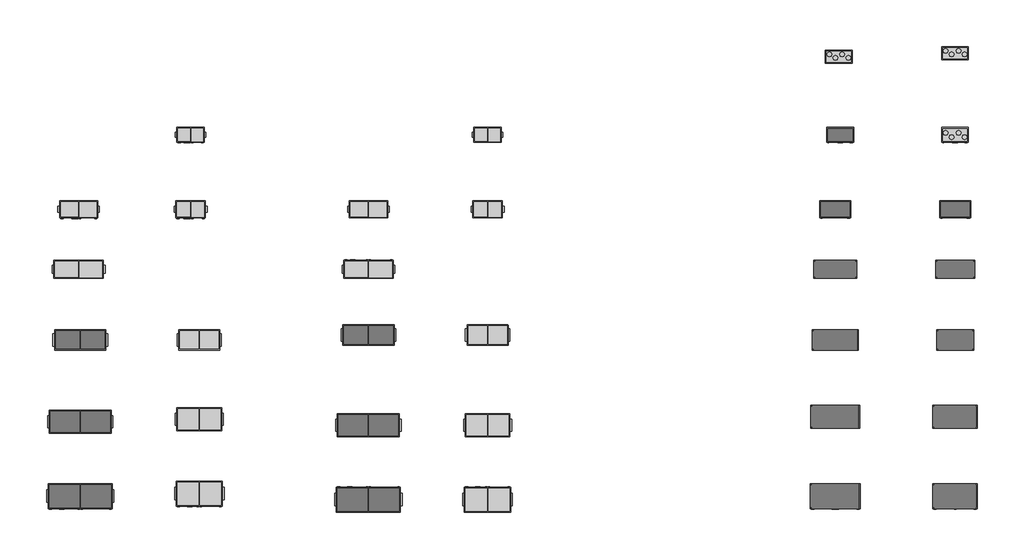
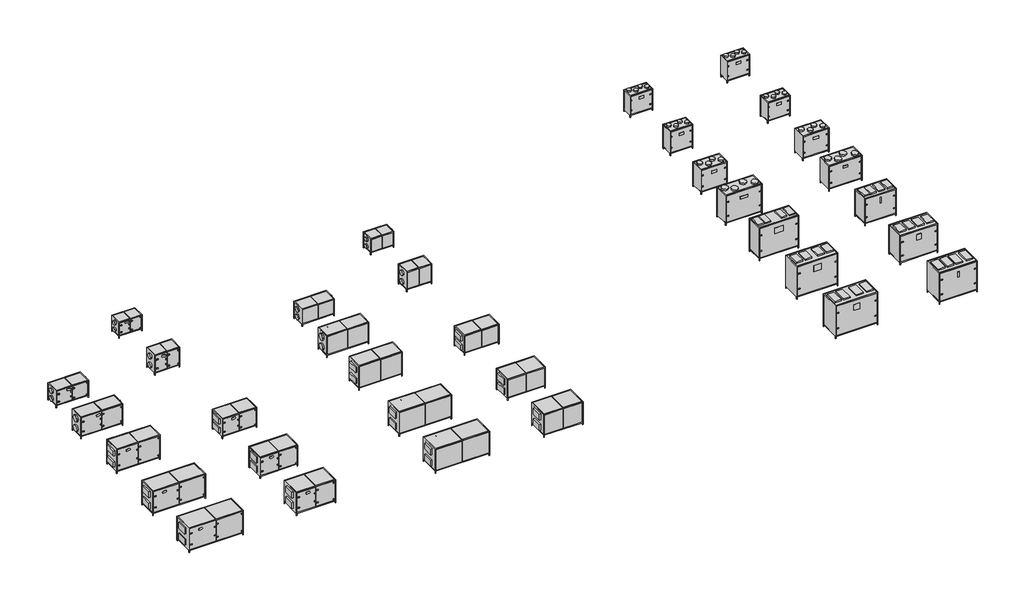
# One storey: 34 proxies.
"""IFC4 building model written with IfcOpenShell, lengths in millimetres."""

from ifc_helpers import new_model, si_unit, origin, place, context, project, spatial, transform, mapped, element, save
from components import mechanical_equipment_2523bcf0, mechanical_equipment_9481cabd, mechanical_equipment_d3b09ded, mechanical_equipment_750895ba, mechanical_equipment_31ed4147, mechanical_equipment_a03e5735, mechanical_equipment_086ffb07, mechanical_equipment_43ca4bb2, mechanical_equipment_346894f1, mechanical_equipment_7bd0ba8a, mechanical_equipment_8b9c5347, mechanical_equipment_660908ed, mechanical_equipment_792a2d4f, mechanical_equipment_8cbfdd6f, mechanical_equipment_98732234, mechanical_equipment_9d146b96, mechanical_equipment_707842d6, mechanical_equipment_707ccb95, mechanical_equipment_3ae6ca7d, mechanical_equipment_b66e81a1, mechanical_equipment_55f593f8, mechanical_equipment_3d6faeaf, mechanical_equipment_435d2f1d, mechanical_equipment_fb35fa56, mechanical_equipment_b3972196, mechanical_equipment_b11091fd, mechanical_equipment_99d7c7c8, mechanical_equipment_9ee506a8, mechanical_equipment_2839a8d2, mechanical_equipment_59593223, mechanical_equipment_4fb69c1d, mechanical_equipment_587655b3

model = new_model("IFC4")

# Units and contexts
model_context = context("Model", 3, world=origin())
ifc_project = project(units=[si_unit("LENGTHUNIT", "METRE", prefix="MILLI")], contexts=[model_context])

# Site, building, storey
site = spatial("IfcSite", under=ifc_project)
building = spatial("IfcBuilding", under=site)
storey = spatial("IfcBuildingStorey", under=building, Name="Уровень 1", Elevation=0.0)

# Proxies
placement = place(None, origin())
mechanical_equipment_shape = mechanical_equipment_2523bcf0(model_context)
element("IfcBuildingElementProxy", 1, Name="AVS 2200...3800-S-RC(RG)-R : AVS 3800-S-RC-R", ObjectType="AVS 2200...3800-S-RC(RG)-R : AVS 3800-S-RC-R", at=placement, inside=storey, context=model_context, shape_type="MappedRepresentation", body=[
    mapped(mechanical_equipment_shape, transform((-18302.7337652, -8735.3766999, 0.0), x_axis=(1.0, 0.0, 0.0), y_axis=(0.0, 1.0, 0.0), z_axis=(0.0, 0.0, 1.0))),
])
mechanical_equipment_2_shape = mechanical_equipment_9481cabd(model_context)
element("IfcBuildingElementProxy", 2, Name="AVS 2200...3800-S-RC(RG)-R : AVS 2900-S-RC-R", ObjectType="AVS 2200...3800-S-RC(RG)-R : AVS 2900-S-RC-R", at=placement, inside=storey, context=model_context, shape_type="MappedRepresentation", body=[
    mapped(mechanical_equipment_2_shape, transform((-18302.7337652, -5735.3766999, 0.0), x_axis=(1.0, 0.0, 0.0), y_axis=(0.0, 1.0, 0.0), z_axis=(0.0, 0.0, 1.0))),
])
mechanical_equipment_3_shape = mechanical_equipment_d3b09ded(model_context)
element("IfcBuildingElementProxy", 3, Name="AVS 2200...3800-S-RC(RG)-R : AVS 2200-S-RC-R", ObjectType="AVS 2200...3800-S-RC(RG)-R : AVS 2200-S-RC-R", at=placement, inside=storey, context=model_context, shape_type="MappedRepresentation", body=[
    mapped(mechanical_equipment_3_shape, transform((-18302.7337652, -2435.3766999, 0.0), x_axis=(1.0, 0.0, 0.0), y_axis=(0.0, 1.0, 0.0), z_axis=(0.0, 0.0, 1.0))),
])
mechanical_equipment_4_shape = mechanical_equipment_750895ba(model_context)
element("IfcBuildingElementProxy", 4, Name="AVS 2200...3800-S-RC(RG)-R : AVS 2200-S-RG-R", ObjectType="AVS 2200...3800-S-RC(RG)-R : AVS 2200-S-RG-R", at=placement, inside=storey, context=model_context, shape_type="MappedRepresentation", body=[
    mapped(mechanical_equipment_4_shape, transform((-13502.7337652, -2435.3766999, 0.0), x_axis=(1.0, 0.0, 0.0), y_axis=(0.0, 1.0, 0.0), z_axis=(0.0, 0.0, 1.0))),
])
mechanical_equipment_5_shape = mechanical_equipment_31ed4147(model_context)
element("IfcBuildingElementProxy", 5, Name="AVS 2200...3800-S-RC(RG)-R : AVS 2900-S-RG-R", ObjectType="AVS 2200...3800-S-RC(RG)-R : AVS 2900-S-RG-R", at=placement, inside=storey, context=model_context, shape_type="MappedRepresentation", body=[
    mapped(mechanical_equipment_5_shape, transform((-13502.7337652, -5635.3766999, 0.0), x_axis=(1.0, 0.0, 0.0), y_axis=(0.0, 1.0, 0.0), z_axis=(0.0, 0.0, 1.0))),
])
mechanical_equipment_6_shape = mechanical_equipment_a03e5735(model_context)
element("IfcBuildingElementProxy", 6, Name="AVS 2200...3800-S-RC(RG)-R : AVS 3800-S-RG-R", ObjectType="AVS 2200...3800-S-RC(RG)-R : AVS 3800-S-RG-R", at=placement, inside=storey, context=model_context, shape_type="MappedRepresentation", body=[
    mapped(mechanical_equipment_6_shape, transform((-13502.7337652, -8635.3766999, 0.0), x_axis=(1.0, 0.0, 0.0), y_axis=(0.0, 1.0, 0.0), z_axis=(0.0, 0.0, 1.0))),
])
mechanical_equipment_7_shape = mechanical_equipment_086ffb07(model_context)
element("IfcBuildingElementProxy", 7, Name="AVS 400...1600-S-RC(RG)-R : AVS 1600-S-RC-R", ObjectType="AVS 400...1600-S-RC(RG)-R : AVS 1600-S-RC-R", at=placement, inside=storey, context=model_context, shape_type="MappedRepresentation", body=[
    mapped(mechanical_equipment_7_shape, transform((-18369.703958, 413.9592899, 0.0), x_axis=(1.0, 0.0, 0.0), y_axis=(0.0, 1.0, 0.0), z_axis=(0.0, 0.0, 1.0))),
])
mechanical_equipment_8_shape = mechanical_equipment_43ca4bb2(model_context)
element("IfcBuildingElementProxy", 8, Name="AVS 400...1600-S-RC(RG)-R : AVS 1100-S-RG-R", ObjectType="AVS 400...1600-S-RC(RG)-R : AVS 1100-S-RG-R", at=placement, inside=storey, context=model_context, shape_type="MappedRepresentation", body=[
    mapped(mechanical_equipment_8_shape, transform((-13853.9818971, 2826.7752053, 0.0), x_axis=(1.0, 0.0, 0.0), y_axis=(0.0, 1.0, 0.0), z_axis=(0.0, 0.0, 1.0))),
])
mechanical_equipment_9_shape = mechanical_equipment_346894f1(model_context)
element("IfcBuildingElementProxy", 9, Name="AVS 400...1600-S-RC(RG)-R : AVS 1100-S-RC-R", ObjectType="AVS 400...1600-S-RC(RG)-R : AVS 1100-S-RC-R", at=placement, inside=storey, context=model_context, shape_type="MappedRepresentation", body=[
    mapped(mechanical_equipment_9_shape, transform((-18369.703958, 2826.7752053, 0.0), x_axis=(1.0, 0.0, 0.0), y_axis=(0.0, 1.0, 0.0), z_axis=(0.0, 0.0, 1.0))),
])
mechanical_equipment_10_shape = mechanical_equipment_7bd0ba8a(model_context)
element("IfcBuildingElementProxy", 10, Name="AVS 400...1600-S-RC(RG)-R : AVS 700-S-RG-R", ObjectType="AVS 400...1600-S-RC(RG)-R : AVS 700-S-RG-R", at=placement, inside=storey, context=model_context, shape_type="MappedRepresentation", body=[
    mapped(mechanical_equipment_10_shape, transform((-13853.9818971, 5826.7752053, 0.0), x_axis=(1.0, 0.0, 0.0), y_axis=(0.0, 1.0, 0.0), z_axis=(0.0, 0.0, 1.0))),
])
mechanical_equipment_11_shape = mechanical_equipment_8b9c5347(model_context)
element("IfcBuildingElementProxy", 11, Name="AVS 2200...3800-S-RC(RG)-L : AVS 3800-S-RC-L", ObjectType="AVS 2200...3800-S-RC(RG)-L : AVS 3800-S-RC-L", at=placement, inside=storey, context=model_context, shape_type="MappedRepresentation", body=[
    mapped(mechanical_equipment_11_shape, transform((-6682.1235207, -8875.3766999, 0.0), x_axis=(1.0, 0.0, 0.0), y_axis=(0.0, 1.0, 0.0), z_axis=(0.0, 0.0, 1.0))),
])
mechanical_equipment_12_shape = mechanical_equipment_660908ed(model_context)
element("IfcBuildingElementProxy", 12, Name="AVS 2200...3800-S-RC(RG)-L : AVS 2900-S-RC-L", ObjectType="AVS 2200...3800-S-RC(RG)-L : AVS 2900-S-RC-L", at=placement, inside=storey, context=model_context, shape_type="MappedRepresentation", body=[
    mapped(mechanical_equipment_12_shape, transform((-6682.1235207, -5875.3766999, 0.0), x_axis=(1.0, 0.0, 0.0), y_axis=(0.0, 1.0, 0.0), z_axis=(0.0, 0.0, 1.0))),
])
mechanical_equipment_13_shape = mechanical_equipment_792a2d4f(model_context)
element("IfcBuildingElementProxy", 13, Name="AVS 2200...3800-S-RC(RG)-L : AVS 2200-S-RC-L", ObjectType="AVS 2200...3800-S-RC(RG)-L : AVS 2200-S-RC-L", at=placement, inside=storey, context=model_context, shape_type="MappedRepresentation", body=[
    mapped(mechanical_equipment_13_shape, transform((-6682.1235207, -2242.086057, 0.0), x_axis=(1.0, 0.0, 0.0), y_axis=(0.0, 1.0, 0.0), z_axis=(0.0, 0.0, 1.0))),
])
mechanical_equipment_14_shape = mechanical_equipment_8cbfdd6f(model_context)
element("IfcBuildingElementProxy", 14, Name="AVS 2200...3800-S-RC(RG)-L : AVS 2200-S-RG-L", ObjectType="AVS 2200...3800-S-RC(RG)-L : AVS 2200-S-RG-L", at=placement, inside=storey, context=model_context, shape_type="MappedRepresentation", body=[
    mapped(mechanical_equipment_14_shape, transform((-1882.1235207, -2242.086057, 0.0), x_axis=(1.0, 0.0, 0.0), y_axis=(0.0, 1.0, 0.0), z_axis=(0.0, 0.0, 1.0))),
])
mechanical_equipment_15_shape = mechanical_equipment_98732234(model_context)
element("IfcBuildingElementProxy", 15, Name="AVS 2200...3800-S-RC(RG)-L : AVS 2900-S-RG-L", ObjectType="AVS 2200...3800-S-RC(RG)-L : AVS 2900-S-RG-L", at=placement, inside=storey, context=model_context, shape_type="MappedRepresentation", body=[
    mapped(mechanical_equipment_15_shape, transform((-1882.1235207, -5875.3766999, 0.0), x_axis=(1.0, 0.0, 0.0), y_axis=(0.0, 1.0, 0.0), z_axis=(0.0, 0.0, 1.0))),
])
mechanical_equipment_16_shape = mechanical_equipment_9d146b96(model_context)
element("IfcBuildingElementProxy", 16, Name="AVS 2200...3800-S-RC(RG)-L : AVS 3800-S-RG-L", ObjectType="AVS 2200...3800-S-RC(RG)-L : AVS 3800-S-RG-L", at=placement, inside=storey, context=model_context, shape_type="MappedRepresentation", body=[
    mapped(mechanical_equipment_16_shape, transform((-1882.1235207, -8875.3766999, 0.0), x_axis=(1.0, 0.0, 0.0), y_axis=(0.0, 1.0, 0.0), z_axis=(0.0, 0.0, 1.0))),
])
mechanical_equipment_17_shape = mechanical_equipment_707842d6(model_context)
element("IfcBuildingElementProxy", 17, Name="AVS 400...1600-S-RC(RG)-L : AVS 1600-S-RC-L", ObjectType="AVS 400...1600-S-RC(RG)-L : AVS 1600-S-RC-L", at=placement, inside=storey, context=model_context, shape_type="MappedRepresentation", body=[
    mapped(mechanical_equipment_17_shape, transform((-6682.1235207, 413.9592899, 0.0), x_axis=(1.0, 0.0, 0.0), y_axis=(0.0, 1.0, 0.0), z_axis=(0.0, 0.0, 1.0))),
])
mechanical_equipment_18_shape = mechanical_equipment_707ccb95(model_context)
element("IfcBuildingElementProxy", 18, Name="AVS 400...1600-S-RC(RG)-L : AVS 1100-S-RG-L", ObjectType="AVS 400...1600-S-RC(RG)-L : AVS 1100-S-RG-L", at=placement, inside=storey, context=model_context, shape_type="MappedRepresentation", body=[
    mapped(mechanical_equipment_18_shape, transform((-1882.1235207, 2826.7752053, 0.0), x_axis=(1.0, 0.0, 0.0), y_axis=(0.0, 1.0, 0.0), z_axis=(0.0, 0.0, 1.0))),
])
mechanical_equipment_19_shape = mechanical_equipment_3ae6ca7d(model_context)
element("IfcBuildingElementProxy", 19, Name="AVS 400...1600-S-RC(RG)-L : AVS 1100-S-RC-L", ObjectType="AVS 400...1600-S-RC(RG)-L : AVS 1100-S-RC-L", at=placement, inside=storey, context=model_context, shape_type="MappedRepresentation", body=[
    mapped(mechanical_equipment_19_shape, transform((-6682.1235207, 2826.7752053, 0.0), x_axis=(1.0, 0.0, 0.0), y_axis=(0.0, 1.0, 0.0), z_axis=(0.0, 0.0, 1.0))),
])
mechanical_equipment_20_shape = mechanical_equipment_b66e81a1(model_context)
element("IfcBuildingElementProxy", 20, Name="AVS 400...1600-S-RC(RG)-L : AVS 700-S-RG-L", ObjectType="AVS 400...1600-S-RC(RG)-L : AVS 700-S-RG-L", at=placement, inside=storey, context=model_context, shape_type="MappedRepresentation", body=[
    mapped(mechanical_equipment_20_shape, transform((-1882.1235207, 5826.7752053, 0.0), x_axis=(1.0, 0.0, 0.0), y_axis=(0.0, 1.0, 0.0), z_axis=(0.0, 0.0, 1.0))),
])
mechanical_equipment_21_shape = mechanical_equipment_55f593f8(model_context)
element("IfcBuildingElementProxy", 21, Name="AVS 2200...3800-V-RC(RG) : AVS 3800-V-RC", ObjectType="AVS 2200...3800-V-RC(RG) : AVS 3800-V-RC", at=placement, inside=storey, context=model_context, shape_type="MappedRepresentation", body=[
    mapped(mechanical_equipment_21_shape, transform((12137.241764, -8735.3766999, 0.0), x_axis=(1.0, 0.0, 0.0), y_axis=(0.0, 1.0, 0.0), z_axis=(0.0, 0.0, 1.0))),
])
mechanical_equipment_22_shape = mechanical_equipment_3d6faeaf(model_context)
element("IfcBuildingElementProxy", 22, Name="AVS 2200...3800-V-RC(RG) : AVS 2900-V-RC", ObjectType="AVS 2200...3800-V-RC(RG) : AVS 2900-V-RC", at=placement, inside=storey, context=model_context, shape_type="MappedRepresentation", body=[
    mapped(mechanical_equipment_22_shape, transform((12137.241764, -5535.3766999, 0.0), x_axis=(1.0, 0.0, 0.0), y_axis=(0.0, 1.0, 0.0), z_axis=(0.0, 0.0, 1.0))),
])
mechanical_equipment_23_shape = mechanical_equipment_435d2f1d(model_context)
element("IfcBuildingElementProxy", 23, Name="AVS 2200...3800-V-RC(RG) : AVS 2200-V-RC", ObjectType="AVS 2200...3800-V-RC(RG) : AVS 2200-V-RC", at=placement, inside=storey, context=model_context, shape_type="MappedRepresentation", body=[
    mapped(mechanical_equipment_23_shape, transform((12137.241764, -2435.3766999, 0.0), x_axis=(1.0, 0.0, 0.0), y_axis=(0.0, 1.0, 0.0), z_axis=(0.0, 0.0, 1.0))),
])
mechanical_equipment_24_shape = mechanical_equipment_fb35fa56(model_context)
element("IfcBuildingElementProxy", 24, Name="AVS 2200...3800-V-RC(RG) : AVS 2900-V-RG", ObjectType="AVS 2200...3800-V-RC(RG) : AVS 2900-V-RG", at=placement, inside=storey, context=model_context, shape_type="MappedRepresentation", body=[
    mapped(mechanical_equipment_24_shape, transform((16968.0142012, -5535.3766999, 0.0), x_axis=(1.0, 0.0, 0.0), y_axis=(0.0, 1.0, 0.0), z_axis=(0.0, 0.0, 1.0))),
])
mechanical_equipment_25_shape = mechanical_equipment_b3972196(model_context)
element("IfcBuildingElementProxy", 25, Name="AVS 2200...3800-V-RC(RG) : AVS 2200-V-RG", ObjectType="AVS 2200...3800-V-RC(RG) : AVS 2200-V-RG", at=placement, inside=storey, context=model_context, shape_type="MappedRepresentation", body=[
    mapped(mechanical_equipment_25_shape, transform((16968.0142012, -2435.3766999, 0.0), x_axis=(1.0, 0.0, 0.0), y_axis=(0.0, 1.0, 0.0), z_axis=(0.0, 0.0, 1.0))),
])
mechanical_equipment_26_shape = mechanical_equipment_b11091fd(model_context)
element("IfcBuildingElementProxy", 26, Name="AVS 2200...3800-V-RC(RG) : AVS 3800-V-RG", ObjectType="AVS 2200...3800-V-RC(RG) : AVS 3800-V-RG", at=placement, inside=storey, context=model_context, shape_type="MappedRepresentation", body=[
    mapped(mechanical_equipment_26_shape, transform((16968.0142012, -8735.3766999, 0.0), x_axis=(1.0, 0.0, 0.0), y_axis=(0.0, 1.0, 0.0), z_axis=(0.0, 0.0, 1.0))),
])
mechanical_equipment_27_shape = mechanical_equipment_99d7c7c8(model_context)
element("IfcBuildingElementProxy", 27, Name="AVS 400...1600-V-RC(RG) : AVS 1600-V-RC", ObjectType="AVS 400...1600-V-RC(RG) : AVS 1600-V-RC", at=placement, inside=storey, context=model_context, shape_type="MappedRepresentation", body=[
    mapped(mechanical_equipment_27_shape, transform((12137.241764, 413.9592899, 0.0), x_axis=(1.0, 0.0, 0.0), y_axis=(0.0, 1.0, 0.0), z_axis=(0.0, 0.0, 1.0))),
])
mechanical_equipment_28_shape = mechanical_equipment_9ee506a8(model_context)
element("IfcBuildingElementProxy", 28, Name="AVS 400...1600-V-RC(RG) : AVS 1100-V-RC", ObjectType="AVS 400...1600-V-RC(RG) : AVS 1100-V-RC", at=placement, inside=storey, context=model_context, shape_type="MappedRepresentation", body=[
    mapped(mechanical_equipment_28_shape, transform((12137.241764, 2826.7752053, 0.0), x_axis=(1.0, 0.0, 0.0), y_axis=(0.0, 1.0, 0.0), z_axis=(0.0, 0.0, 1.0))),
])
element("IfcBuildingElementProxy", 29, Name="AVS 400...1600-V-RC(RG) : AVS 1100-V-RG", ObjectType="AVS 400...1600-V-RC(RG) : AVS 1100-V-RG", at=placement, inside=storey, context=model_context, shape_type="MappedRepresentation", body=[
    mapped(mechanical_equipment_28_shape, transform((16968.0142012, 2826.7752053, 0.0), x_axis=(1.0, 0.0, 0.0), y_axis=(0.0, 1.0, 0.0), z_axis=(0.0, 0.0, 1.0))),
])
mechanical_equipment_29_shape = mechanical_equipment_2839a8d2(model_context)
element("IfcBuildingElementProxy", 30, Name="AVS 400...1600-V-RC(RG) : AVS 700-V-RG", ObjectType="AVS 400...1600-V-RC(RG) : AVS 700-V-RG", at=placement, inside=storey, context=model_context, shape_type="MappedRepresentation", body=[
    mapped(mechanical_equipment_29_shape, transform((16968.0142012, 5826.7752053, 0.0), x_axis=(1.0, 0.0, 0.0), y_axis=(0.0, 1.0, 0.0), z_axis=(0.0, 0.0, 1.0))),
])
mechanical_equipment_30_shape = mechanical_equipment_59593223(model_context)
element("IfcBuildingElementProxy", 31, Name="AVS 400...1600-V-RC(RG) : AVS 700-V-RC", ObjectType="AVS 400...1600-V-RC(RG) : AVS 700-V-RC", at=placement, inside=storey, context=model_context, shape_type="MappedRepresentation", body=[
    mapped(mechanical_equipment_30_shape, transform((12337.241764, 5826.7752053, 0.0), x_axis=(1.0, 0.0, 0.0), y_axis=(0.0, 1.0, 0.0), z_axis=(0.0, 0.0, 1.0))),
])
mechanical_equipment_31_shape = mechanical_equipment_4fb69c1d(model_context)
element("IfcBuildingElementProxy", 32, Name="AVS 400...1600-V-RC(RG) : AVS 1600-V-RG", ObjectType="AVS 400...1600-V-RC(RG) : AVS 1600-V-RG", at=placement, inside=storey, context=model_context, shape_type="MappedRepresentation", body=[
    mapped(mechanical_equipment_31_shape, transform((16968.0142012, 413.9592899, 0.0), x_axis=(1.0, 0.0, 0.0), y_axis=(0.0, 1.0, 0.0), z_axis=(0.0, 0.0, 1.0))),
])
mechanical_equipment_32_shape = mechanical_equipment_587655b3(model_context)
element("IfcBuildingElementProxy", 33, Name="AVS 400...1600-V-RC(RG) : AVS 400-V-RG", ObjectType="AVS 400...1600-V-RC(RG) : AVS 400-V-RG", at=placement, inside=storey, context=model_context, shape_type="MappedRepresentation", body=[
    mapped(mechanical_equipment_32_shape, transform((16968.0142012, 9126.7752053, 0.0), x_axis=(1.0, 0.0, 0.0), y_axis=(0.0, 1.0, 0.0), z_axis=(0.0, 0.0, 1.0))),
])
element("IfcBuildingElementProxy", 34, Name="AVS 400...1600-V-RC(RG) : AVS 400-V-RV", ObjectType="AVS 400...1600-V-RC(RG) : AVS 400-V-RV", at=placement, inside=storey, context=model_context, shape_type="MappedRepresentation", body=[
    mapped(mechanical_equipment_32_shape, transform((12278.6631202, 8985.3538491, 0.0), x_axis=(1.0, 0.0, 0.0), y_axis=(0.0, 1.0, 0.0), z_axis=(0.0, 0.0, 1.0))),
])

save(model, "model.ifc")
